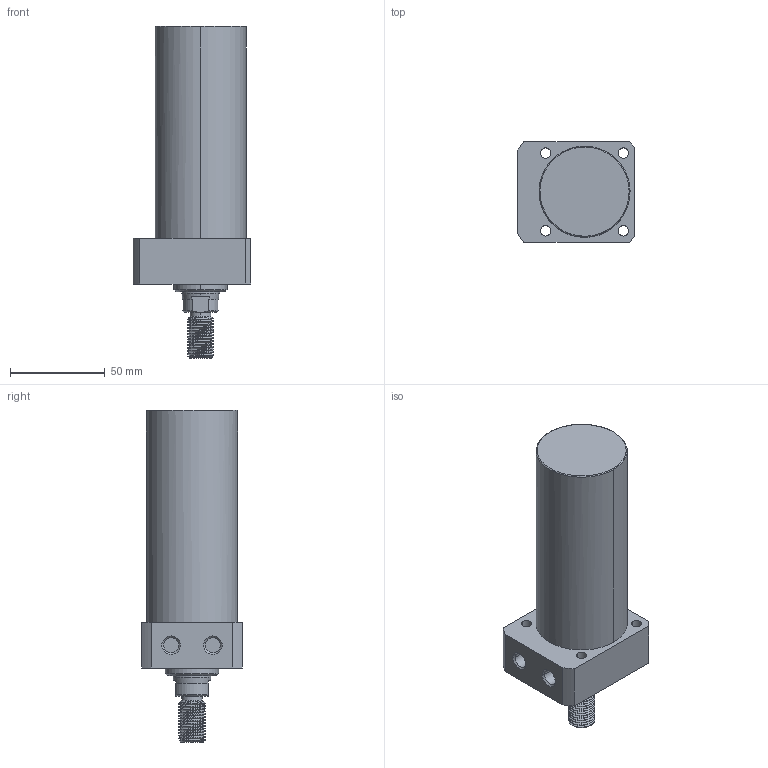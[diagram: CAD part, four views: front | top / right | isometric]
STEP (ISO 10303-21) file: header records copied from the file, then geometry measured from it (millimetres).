
FILE_DESCRIPTION((' '),'2;1');
FILE_NAME( 'TLLR-048CT-085.STEP.stp', '2025-10-24T16:34:35', (' '), ('--- Datakit www.datakit.com---'), ' Datakit CrossCadWare V2024.1 Dec 21 2023', 'Mastercam 2025', ' ');
FILE_SCHEMA(('AUTOMOTIVE_DESIGN { 1 0 10303 214 1 1 1 1 }'));
Length unit declared in the file: millimetre
Products named in the file (1): TLLR-048CT-085
Bounding box: 62 x 53 x 175 mm (x, y, z)
Volume: 285625.2 mm3; surface area: 33543.6 mm2
Topology: 1 solids, 1 shells, 97 faces, 331 edges, 244 vertices
Faces by surface type: cylinder 56, plane 20, cone 17, bspline 2, torus 2
Entity records: 10285 total; most frequent: CARTESIAN_POINT 7366, ORIENTED_EDGE 662, DIRECTION 505, EDGE_CURVE 331, VERTEX_POINT 244, AXIS2_PLACEMENT_3D 207, B_SPLINE_CURVE_WITH_KNOTS 129, EDGE_LOOP 113
